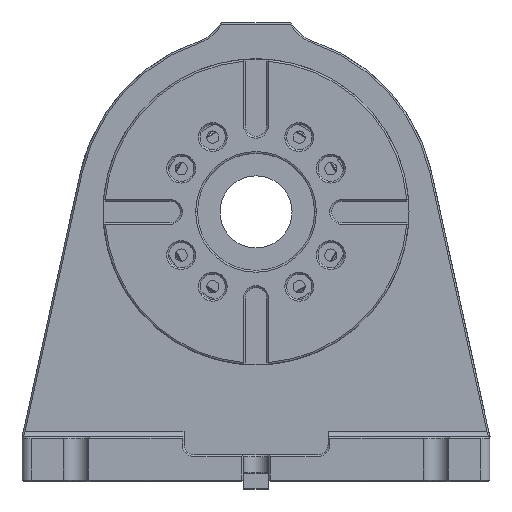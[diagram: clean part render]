
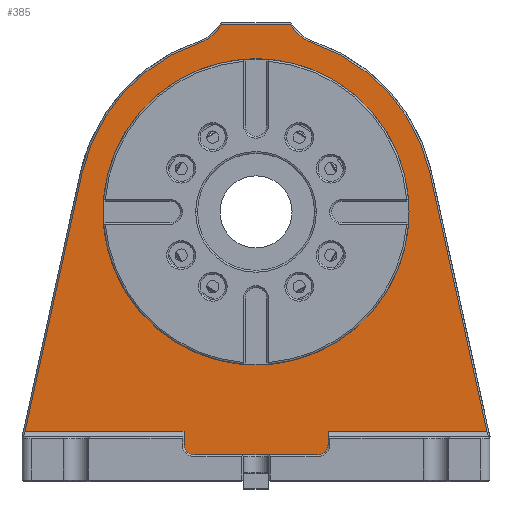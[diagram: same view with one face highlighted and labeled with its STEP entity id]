
A CAD part, front view. The second image highlights one B-rep face of the part: STEP entity #385.
In plain terms, the highlighted planar face has unit normal (0, -1, 0).
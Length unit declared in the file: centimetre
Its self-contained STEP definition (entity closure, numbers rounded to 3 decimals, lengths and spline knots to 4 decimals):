
#54 = VECTOR ( 'NONE', #12268, 100. ) ;
#385 = ADVANCED_FACE ( 'NONE', ( #9981, #3619 ), #12388, .F. ) ;
#931 = CARTESIAN_POINT ( 'NONE',  ( 4.7984, -4.8129, 15.75 ) ) ;
#942 = LINE ( 'NONE', #14979, #4671 ) ;
#1091 = CARTESIAN_POINT ( 'NONE',  ( 13.6298, -4.8129, 17.05 ) ) ;
#1131 = CARTESIAN_POINT ( 'NONE',  ( 2.7373, -4.8129, 39.65 ) ) ;
#1216 = CARTESIAN_POINT ( 'NONE',  ( -12.0377, -4.8129, 17.0284 ) ) ;
#1279 = ORIENTED_EDGE ( 'NONE', *, *, #16440, .T. ) ;
#1366 = AXIS2_PLACEMENT_3D ( 'NONE', #1768, #10332, #13171 ) ;
#1382 = LINE ( 'NONE', #1216, #3168 ) ;
#1553 = VECTOR ( 'NONE', #15627, 100. ) ;
#1586 = CIRCLE ( 'NONE', #11941, 0.6 ) ;
#1662 = AXIS2_PLACEMENT_3D ( 'NONE', #2093, #11893, #2029 ) ;
#1768 = CARTESIAN_POINT ( 'NONE',  ( 0.7984, -4.8129, 29.25 ) ) ;
#1929 = VERTEX_POINT ( 'NONE', #4831 ) ;
#2029 = DIRECTION ( 'NONE',  ( -1., 0., 0. ) ) ;
#2080 = CARTESIAN_POINT ( 'NONE',  ( 10.4657, -4.8129, 31.384 ) ) ;
#2093 = CARTESIAN_POINT ( 'NONE',  ( 4.1984, -4.8129, 16.35 ) ) ;
#2260 = ORIENTED_EDGE ( 'NONE', *, *, #17042, .T. ) ;
#2279 = CARTESIAN_POINT ( 'NONE',  ( 0.7984, -4.8129, 29.25 ) ) ;
#2312 = VERTEX_POINT ( 'NONE', #5617 ) ;
#2416 = AXIS2_PLACEMENT_3D ( 'NONE', #2279, #10652, #16289 ) ;
#2482 = ORIENTED_EDGE ( 'NONE', *, *, #9479, .T. ) ;
#2620 = VERTEX_POINT ( 'NONE', #12282 ) ;
#2713 = DIRECTION ( 'NONE',  ( -1., 0., 0. ) ) ;
#2739 = CARTESIAN_POINT ( 'NONE',  ( 4.7984, -4.8129, 16.35 ) ) ;
#3073 = ORIENTED_EDGE ( 'NONE', *, *, #7514, .T. ) ;
#3141 = CARTESIAN_POINT ( 'NONE',  ( -2.9954, -4.8129, 40.6345 ) ) ;
#3168 = VECTOR ( 'NONE', #5413, 100. ) ;
#3236 = EDGE_CURVE ( 'NONE', #12843, #1929, #15635, .T. ) ;
#3534 = CARTESIAN_POINT ( 'NONE',  ( 10.4657, -4.8129, 31.384 ) ) ;
#3619 = FACE_OUTER_BOUND ( 'NONE', #9488, .T. ) ;
#3632 = AXIS2_PLACEMENT_3D ( 'NONE', #15117, #3998, #2713 ) ;
#3781 = EDGE_CURVE ( 'NONE', #12924, #9340, #7670, .T. ) ;
#3875 = VERTEX_POINT ( 'NONE', #6045 ) ;
#3969 = CARTESIAN_POINT ( 'NONE',  ( -2.3315, -4.8129, 38.6422 ) ) ;
#3998 = DIRECTION ( 'NONE',  ( 0., 1., 0. ) ) ;
#4115 = LINE ( 'NONE', #10842, #14669 ) ;
#4344 = CARTESIAN_POINT ( 'NONE',  ( -9.2016, -4.8129, 17.05 ) ) ;
#4537 = DIRECTION ( 'NONE',  ( -1., 0., 0. ) ) ;
#4542 = AXIS2_PLACEMENT_3D ( 'NONE', #3141, #10157, #7392 ) ;
#4656 = ORIENTED_EDGE ( 'NONE', *, *, #5222, .T. ) ;
#4671 = VECTOR ( 'NONE', #9470, 100. ) ;
#4831 = CARTESIAN_POINT ( 'NONE',  ( -3.2016, -4.8129, 16.35 ) ) ;
#4898 = LINE ( 'NONE', #931, #54 ) ;
#4989 = VECTOR ( 'NONE', #17690, 100. ) ;
#5161 = CARTESIAN_POINT ( 'NONE',  ( 4.5922, -4.8129, 40.6345 ) ) ;
#5222 = EDGE_CURVE ( 'NONE', #9406, #12924, #4115, .T. ) ;
#5276 = EDGE_CURVE ( 'NONE', #15307, #7214, #10903, .T. ) ;
#5413 = DIRECTION ( 'NONE',  ( -0.216, 0., -0.976 ) ) ;
#5605 = DIRECTION ( 'NONE',  ( -1., 0., 0. ) ) ;
#5617 = CARTESIAN_POINT ( 'NONE',  ( -12.033, -4.8129, 17.05 ) ) ;
#5770 = ORIENTED_EDGE ( 'NONE', *, *, #14743, .T. ) ;
#5772 = CIRCLE ( 'NONE', #1662, 0.6 ) ;
#6045 = CARTESIAN_POINT ( 'NONE',  ( 3.9283, -4.8129, 38.6422 ) ) ;
#6078 = ORIENTED_EDGE ( 'NONE', *, *, #13536, .T. ) ;
#6464 = VERTEX_POINT ( 'NONE', #9396 ) ;
#6545 = DIRECTION ( 'NONE',  ( 0., 1., 0. ) ) ;
#6565 = VECTOR ( 'NONE', #11854, 100. ) ;
#6586 = VECTOR ( 'NONE', #16687, 100. ) ;
#6648 = ORIENTED_EDGE ( 'NONE', *, *, #11729, .T. ) ;
#7044 = AXIS2_PLACEMENT_3D ( 'NONE', #11499, #12929, #4537 ) ;
#7062 = CARTESIAN_POINT ( 'NONE',  ( -3.2016, -4.8129, 15.75 ) ) ;
#7214 = VERTEX_POINT ( 'NONE', #2080 ) ;
#7247 = EDGE_CURVE ( 'NONE', #2620, #9471, #13389, .T. ) ;
#7392 = DIRECTION ( 'NONE',  ( -1., 0., 0. ) ) ;
#7514 = EDGE_CURVE ( 'NONE', #2312, #12843, #11814, .T. ) ;
#7670 = CIRCLE ( 'NONE', #4542, 2.1 ) ;
#7766 = AXIS2_PLACEMENT_3D ( 'NONE', #5161, #6545, #15009 ) ;
#8234 = CARTESIAN_POINT ( 'NONE',  ( -2.6016, -4.8129, 16.35 ) ) ;
#8958 = EDGE_CURVE ( 'NONE', #16569, #10897, #942, .T. ) ;
#9340 = VERTEX_POINT ( 'NONE', #3969 ) ;
#9396 = CARTESIAN_POINT ( 'NONE',  ( -8.8689, -4.8129, 31.384 ) ) ;
#9406 = VERTEX_POINT ( 'NONE', #1131 ) ;
#9470 = DIRECTION ( 'NONE',  ( 1., 0., 0. ) ) ;
#9471 = VERTEX_POINT ( 'NONE', #12714 ) ;
#9479 = EDGE_CURVE ( 'NONE', #1929, #16569, #1586, .T. ) ;
#9488 = EDGE_LOOP ( 'NONE', ( #2260, #1279, #3073, #9720, #2482, #15224, #12429, #6648, #5770, #17103, #10088, #6078, #4656, #17112 ) ) ;
#9717 = DIRECTION ( 'NONE',  ( 0., -1., 0. ) ) ;
#9720 = ORIENTED_EDGE ( 'NONE', *, *, #3236, .T. ) ;
#9872 = EDGE_CURVE ( 'NONE', #7214, #3875, #17873, .T. ) ;
#9981 = FACE_BOUND ( 'NONE', #15150, .T. ) ;
#10088 = ORIENTED_EDGE ( 'NONE', *, *, #9872, .T. ) ;
#10157 = DIRECTION ( 'NONE',  ( 0., 1., 0. ) ) ;
#10289 = CARTESIAN_POINT ( 'NONE',  ( 4.7984, -4.8129, 17.05 ) ) ;
#10332 = DIRECTION ( 'NONE',  ( 0., -1., 0. ) ) ;
#10652 = DIRECTION ( 'NONE',  ( 0., 1., 0. ) ) ;
#10842 = CARTESIAN_POINT ( 'NONE',  ( -1.2016, -4.8129, 39.65 ) ) ;
#10897 = VERTEX_POINT ( 'NONE', #13374 ) ;
#10903 = LINE ( 'NONE', #3534, #4989 ) ;
#11439 = CIRCLE ( 'NONE', #11705, 9.9 ) ;
#11499 = CARTESIAN_POINT ( 'NONE',  ( 0.7984, -4.8129, 29.25 ) ) ;
#11600 = EDGE_CURVE ( 'NONE', #10897, #14257, #5772, .T. ) ;
#11705 = AXIS2_PLACEMENT_3D ( 'NONE', #14329, #15443, #16844 ) ;
#11729 = EDGE_CURVE ( 'NONE', #14257, #16167, #4898, .T. ) ;
#11814 = LINE ( 'NONE', #11976, #6565 ) ;
#11854 = DIRECTION ( 'NONE',  ( 1., 0., 0. ) ) ;
#11893 = DIRECTION ( 'NONE',  ( 0., -1., 0. ) ) ;
#11941 = AXIS2_PLACEMENT_3D ( 'NONE', #8234, #9717, #5605 ) ;
#11976 = CARTESIAN_POINT ( 'NONE',  ( -9.2016, -4.8129, 17.05 ) ) ;
#12117 = ORIENTED_EDGE ( 'NONE', *, *, #18245, .T. ) ;
#12254 = DIRECTION ( 'NONE',  ( -1., 0., 0. ) ) ;
#12268 = DIRECTION ( 'NONE',  ( 0., 0., 1. ) ) ;
#12282 = CARTESIAN_POINT ( 'NONE',  ( -7.6516, -4.8129, 29.25 ) ) ;
#12388 = PLANE ( 'NONE',  #3632 ) ;
#12429 = ORIENTED_EDGE ( 'NONE', *, *, #11600, .T. ) ;
#12714 = CARTESIAN_POINT ( 'NONE',  ( 9.2484, -4.8129, 29.25 ) ) ;
#12843 = VERTEX_POINT ( 'NONE', #16129 ) ;
#12924 = VERTEX_POINT ( 'NONE', #16605 ) ;
#12929 = DIRECTION ( 'NONE',  ( 0., 1., 0. ) ) ;
#13171 = DIRECTION ( 'NONE',  ( -1., 0., 0. ) ) ;
#13374 = CARTESIAN_POINT ( 'NONE',  ( 4.1984, -4.8129, 15.75 ) ) ;
#13389 = CIRCLE ( 'NONE', #2416, 8.45 ) ;
#13536 = EDGE_CURVE ( 'NONE', #3875, #9406, #14534, .T. ) ;
#13987 = ORIENTED_EDGE ( 'NONE', *, *, #7247, .T. ) ;
#14091 = LINE ( 'NONE', #4344, #6586 ) ;
#14257 = VERTEX_POINT ( 'NONE', #2739 ) ;
#14289 = CARTESIAN_POINT ( 'NONE',  ( -2.6016, -4.8129, 15.75 ) ) ;
#14329 = CARTESIAN_POINT ( 'NONE',  ( 0.7984, -4.8129, 29.25 ) ) ;
#14534 = CIRCLE ( 'NONE', #7766, 2.1 ) ;
#14669 = VECTOR ( 'NONE', #12254, 100. ) ;
#14743 = EDGE_CURVE ( 'NONE', #16167, #15307, #14091, .T. ) ;
#14979 = CARTESIAN_POINT ( 'NONE',  ( -3.2016, -4.8129, 15.75 ) ) ;
#15009 = DIRECTION ( 'NONE',  ( -1., 0., 0. ) ) ;
#15117 = CARTESIAN_POINT ( 'NONE',  ( -9.2016, -4.8129, 29.25 ) ) ;
#15150 = EDGE_LOOP ( 'NONE', ( #12117, #13987 ) ) ;
#15224 = ORIENTED_EDGE ( 'NONE', *, *, #8958, .T. ) ;
#15307 = VERTEX_POINT ( 'NONE', #1091 ) ;
#15443 = DIRECTION ( 'NONE',  ( 0., -1., 0. ) ) ;
#15627 = DIRECTION ( 'NONE',  ( 0., 0., -1. ) ) ;
#15635 = LINE ( 'NONE', #7062, #1553 ) ;
#16129 = CARTESIAN_POINT ( 'NONE',  ( -3.2016, -4.8129, 17.05 ) ) ;
#16167 = VERTEX_POINT ( 'NONE', #10289 ) ;
#16289 = DIRECTION ( 'NONE',  ( -1., 0., 0. ) ) ;
#16440 = EDGE_CURVE ( 'NONE', #6464, #2312, #1382, .T. ) ;
#16569 = VERTEX_POINT ( 'NONE', #14289 ) ;
#16605 = CARTESIAN_POINT ( 'NONE',  ( -1.1404, -4.8129, 39.65 ) ) ;
#16687 = DIRECTION ( 'NONE',  ( 1., 0., 0. ) ) ;
#16844 = DIRECTION ( 'NONE',  ( -1., 0., 0. ) ) ;
#17042 = EDGE_CURVE ( 'NONE', #9340, #6464, #11439, .T. ) ;
#17103 = ORIENTED_EDGE ( 'NONE', *, *, #5276, .T. ) ;
#17112 = ORIENTED_EDGE ( 'NONE', *, *, #3781, .T. ) ;
#17359 = CIRCLE ( 'NONE', #7044, 8.45 ) ;
#17690 = DIRECTION ( 'NONE',  ( -0.216, 0., 0.976 ) ) ;
#17873 = CIRCLE ( 'NONE', #1366, 9.9 ) ;
#18245 = EDGE_CURVE ( 'NONE', #9471, #2620, #17359, .T. ) ;
